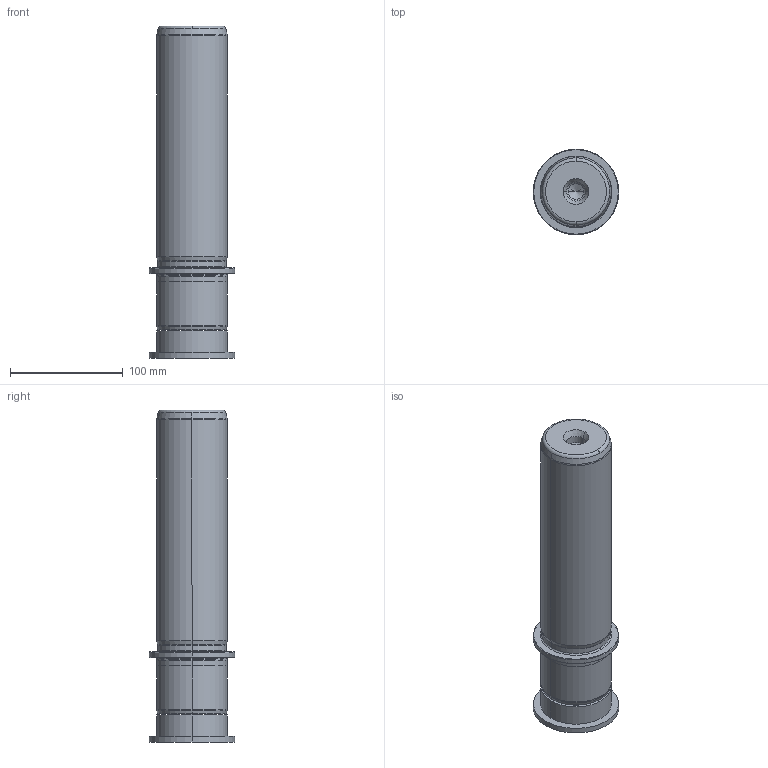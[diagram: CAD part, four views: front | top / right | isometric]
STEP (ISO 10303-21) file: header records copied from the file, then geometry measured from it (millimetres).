
FILE_DESCRIPTION((''),'2;1');
FILE_NAME('P22_063_220.stp','2009-02-06T15:51:43',(''),(''),'Mechanical Desktop 2009','Mechanical Desktop 2009',', , ');
FILE_SCHEMA(('CONFIG_CONTROL_DESIGN'));
Length unit declared in the file: millimetre
Products named in the file (2): Product; blmdl1
Assembly tree (1 placements, depth 2):
  Product
    blmdl1
Bounding box: 76 x 76 x 295 mm (x, y, z)
Volume: 913318.1 mm3; surface area: 85703 mm2
Topology: 3 solids, 3 shells, 99 faces, 237 edges, 149 vertices
Faces by surface type: cylinder 32, cone 28, plane 19, torus 10, bspline 10
Entity records: 3419 total; most frequent: CARTESIAN_POINT 923, DIRECTION 570, ORIENTED_EDGE 466, AXIS2_PLACEMENT_3D 246, EDGE_CURVE 233, CIRCLE 155, VERTEX_POINT 149, EDGE_LOOP 110
